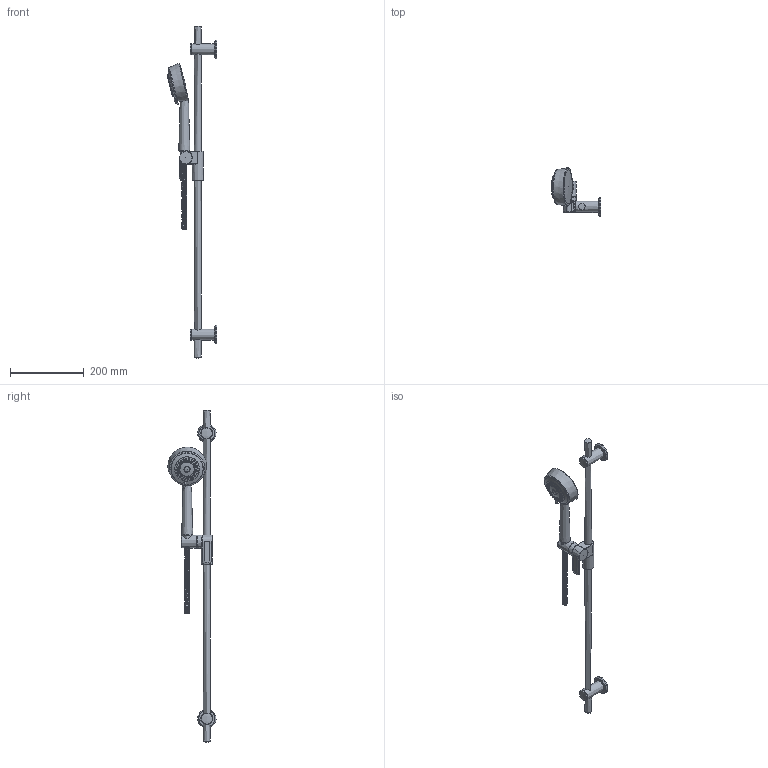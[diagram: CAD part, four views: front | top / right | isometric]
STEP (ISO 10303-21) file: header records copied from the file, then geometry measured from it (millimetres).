
FILE_DESCRIPTION(/* description */ (''),/* implementation_level */ '2;1');
FILE_NAME(/* name */ 'X:\Utilisateurs\Simon O\MOMENTI\4861 3D.stp',/* time_stamp */ '2016-10-20T11:40:36-04:00',/* author */ ('simono'),/* organization */ (''),/* preprocessor_version */ 'ST-DEVELOPER v15.6',/* originating_system */ 'Autodesk Inventor 2015',/* authorisation */ '');
FILE_SCHEMA (('AUTOMOTIVE_DESIGN { 1 0 10303 214 3 1 1 }'));
Length unit declared in the file: millimetre
Products named in the file (1): 4861 3D
Bounding box: 134.07 x 130.34 x 899.56 mm (x, y, z)
Volume: 811550.3 mm3; surface area: 174686.3 mm2
Topology: 3 solids, 7 shells, 976 faces, 2486 edges, 1596 vertices
Faces by surface type: plane 438, bspline 318, cylinder 150, torus 33, cone 25, sphere 12
Full cylindrical faces by diameter (mm): 3 x48, 6 x1, 11.1 x1, 19 x6, 24.5 x1, 25 x1, 29.9 x2, 30 x3, 39.06 x1, 41.06 x1, 42.6 x1, 42.9 x2, 50 x2, 62 x1, 62.25 x1, 67.56 x1, 83 x1, 84.7 x1, 86.7 x1, 87.6 x1, 95.3 x1
Entity records: 115100 total; most frequent: CARTESIAN_POINT 93659, ORIENTED_EDGE 4566, DIRECTION 3514, EDGE_CURVE 2282, VERTEX_POINT 1510, AXIS2_PLACEMENT_3D 1209, EDGE_LOOP 1171, LINE 1096
